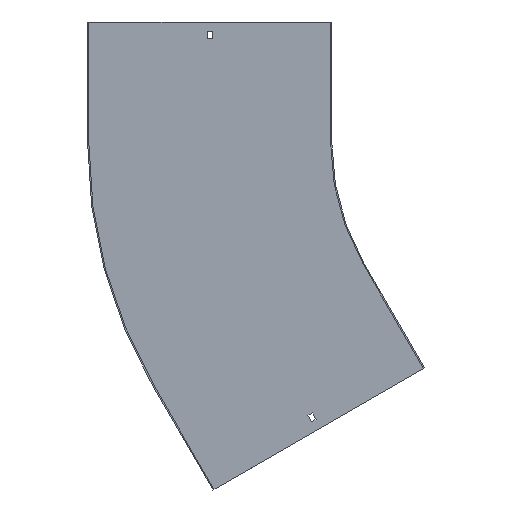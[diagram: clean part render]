
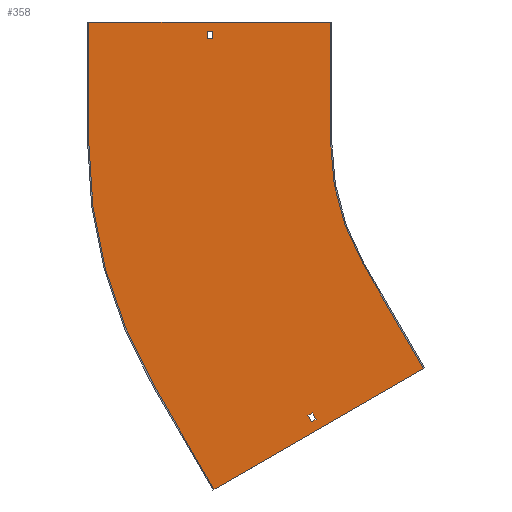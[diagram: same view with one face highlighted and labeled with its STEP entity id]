
A CAD part, front view. The second image highlights one B-rep face of the part: STEP entity #358.
In plain terms, the highlighted planar face has unit normal (0, -1, 0).
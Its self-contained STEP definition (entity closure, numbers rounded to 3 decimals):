
#2 = ORIENTED_EDGE ( 'NONE', *, *, #404, .T. ) ;
#3 = CARTESIAN_POINT ( 'NONE',  ( -453.25, -1.5, 129. ) ) ;
#9 = VERTEX_POINT ( 'NONE', #702 ) ;
#11 = ORIENTED_EDGE ( 'NONE', *, *, #659, .F. ) ;
#16 = DIRECTION ( 'NONE',  ( -0.5, 0., 0.866 ) ) ;
#22 = CARTESIAN_POINT ( 'NONE',  ( -453.25, -1.5, 0. ) ) ;
#34 = VERTEX_POINT ( 'NONE', #773 ) ;
#37 = FACE_BOUND ( 'NONE', #284, .T. ) ;
#47 = CARTESIAN_POINT ( 'NONE',  ( -392.526, -1.5, -226.625 ) ) ;
#53 = EDGE_CURVE ( 'NONE', #198, #804, #835, .T. ) ;
#64 = LINE ( 'NONE', #855, #696 ) ;
#68 = LINE ( 'NONE', #475, #747 ) ;
#69 = CARTESIAN_POINT ( 'NONE',  ( -183.509, -1.5, -279.154 ) ) ;
#83 = ORIENTED_EDGE ( 'NONE', *, *, #166, .F. ) ;
#89 = DIRECTION ( 'NONE',  ( 0., 0., 1. ) ) ;
#91 = DIRECTION ( 'NONE',  ( 0., 0., -1. ) ) ;
#93 = LINE ( 'NONE', #420, #165 ) ;
#95 = CARTESIAN_POINT ( 'NONE',  ( 0., -1.5, 0. ) ) ;
#100 = CARTESIAN_POINT ( 'NONE',  ( 0., -1.5, 0. ) ) ;
#105 = DIRECTION ( 'NONE',  ( 0., 0., -1. ) ) ;
#113 = LINE ( 'NONE', #47, #733 ) ;
#119 = CARTESIAN_POINT ( 'NONE',  ( -323.526, -1.5, -346.137 ) ) ;
#122 = CARTESIAN_POINT ( 'NONE',  ( -601.5, -1.5, 150. ) ) ;
#135 = EDGE_LOOP ( 'NONE', ( #210, #222, #247, #832, #83, #493, #11, #751 ) ) ;
#136 = ORIENTED_EDGE ( 'NONE', *, *, #390, .T. ) ;
#153 = DIRECTION ( 'NONE',  ( 0.866, 0., 0.5 ) ) ;
#157 = FACE_BOUND ( 'NONE', #396, .T. ) ;
#163 = LINE ( 'NONE', #22, #451 ) ;
#165 = VECTOR ( 'NONE', #691, 1000. ) ;
#166 = EDGE_CURVE ( 'NONE', #345, #630, #464, .T. ) ;
#178 = DIRECTION ( 'NONE',  ( 0., 0., -1. ) ) ;
#182 = EDGE_CURVE ( 'NONE', #434, #476, #501, .T. ) ;
#188 = VECTOR ( 'NONE', #91, 1000. ) ;
#194 = CARTESIAN_POINT ( 'NONE',  ( 64.5, -1.5, -111.717 ) ) ;
#198 = VERTEX_POINT ( 'NONE', #416 ) ;
#200 = VERTEX_POINT ( 'NONE', #637 ) ;
#210 = ORIENTED_EDGE ( 'NONE', *, *, #466, .F. ) ;
#222 = ORIENTED_EDGE ( 'NONE', *, *, #474, .F. ) ;
#247 = ORIENTED_EDGE ( 'NONE', *, *, #53, .F. ) ;
#248 = DIRECTION ( 'NONE',  ( 0., 0., 1. ) ) ;
#255 = CARTESIAN_POINT ( 'NONE',  ( -300., -1.5, 150. ) ) ;
#262 = LINE ( 'NONE', #122, #306 ) ;
#271 = EDGE_CURVE ( 'NONE', #625, #200, #488, .T. ) ;
#278 = VERTEX_POINT ( 'NONE', #421 ) ;
#283 = ORIENTED_EDGE ( 'NONE', *, *, #182, .T. ) ;
#284 = EDGE_LOOP ( 'NONE', ( #670, #283, #136, #2 ) ) ;
#306 = VECTOR ( 'NONE', #655, 1000. ) ;
#310 = ORIENTED_EDGE ( 'NONE', *, *, #457, .F. ) ;
#324 = CARTESIAN_POINT ( 'NONE',  ( -259.808, -1.5, -150. ) ) ;
#326 = DIRECTION ( 'NONE',  ( -0.866, 0., -0.5 ) ) ;
#329 = AXIS2_PLACEMENT_3D ( 'NONE', #95, #701, #105 ) ;
#345 = VERTEX_POINT ( 'NONE', #499 ) ;
#358 = ADVANCED_FACE ( 'NONE', ( #157, #427, #37 ), #692, .T. ) ;
#363 = CARTESIAN_POINT ( 'NONE',  ( 0., -1.5, 0. ) ) ;
#377 = CARTESIAN_POINT ( 'NONE',  ( -444.615, -1.5, -429.904 ) ) ;
#378 = CARTESIAN_POINT ( 'NONE',  ( -600., -1.5, 0. ) ) ;
#385 = DIRECTION ( 'NONE',  ( 0., 0., -1. ) ) ;
#390 = EDGE_CURVE ( 'NONE', #476, #735, #93, .T. ) ;
#396 = EDGE_LOOP ( 'NONE', ( #310, #513, #446, #477 ) ) ;
#403 = DIRECTION ( 'NONE',  ( -0.5, 0., 0.866 ) ) ;
#404 = EDGE_CURVE ( 'NONE', #735, #570, #163, .T. ) ;
#416 = CARTESIAN_POINT ( 'NONE',  ( -519.615, -1.5, -300. ) ) ;
#420 = CARTESIAN_POINT ( 'NONE',  ( 0., -1.5, 129. ) ) ;
#421 = CARTESIAN_POINT ( 'NONE',  ( -300., -1.5, 150. ) ) ;
#427 = FACE_OUTER_BOUND ( 'NONE', #135, .T. ) ;
#429 = CARTESIAN_POINT ( 'NONE',  ( 0., -1.5, 138. ) ) ;
#434 = VERTEX_POINT ( 'NONE', #797 ) ;
#443 = LINE ( 'NONE', #717, #469 ) ;
#446 = ORIENTED_EDGE ( 'NONE', *, *, #610, .F. ) ;
#451 = VECTOR ( 'NONE', #89, 1000. ) ;
#454 = EDGE_CURVE ( 'NONE', #34, #808, #536, .T. ) ;
#457 = EDGE_CURVE ( 'NONE', #200, #34, #443, .T. ) ;
#460 = LINE ( 'NONE', #324, #783 ) ;
#461 = VECTOR ( 'NONE', #695, 1000. ) ;
#464 = LINE ( 'NONE', #69, #711 ) ;
#465 = CARTESIAN_POINT ( 'NONE',  ( -328.026, -1.5, -338.342 ) ) ;
#466 = EDGE_CURVE ( 'NONE', #674, #278, #262, .T. ) ;
#469 = VECTOR ( 'NONE', #16, 1000. ) ;
#474 = EDGE_CURVE ( 'NONE', #804, #674, #64, .T. ) ;
#475 = CARTESIAN_POINT ( 'NONE',  ( -444.615, -1.5, -429.904 ) ) ;
#476 = VERTEX_POINT ( 'NONE', #626 ) ;
#477 = ORIENTED_EDGE ( 'NONE', *, *, #454, .F. ) ;
#488 = LINE ( 'NONE', #749, #645 ) ;
#493 = ORIENTED_EDGE ( 'NONE', *, *, #829, .F. ) ;
#499 = CARTESIAN_POINT ( 'NONE',  ( -184.808, -1.5, -279.904 ) ) ;
#501 = LINE ( 'NONE', #761, #188 ) ;
#512 = EDGE_CURVE ( 'NONE', #630, #198, #68, .T. ) ;
#513 = ORIENTED_EDGE ( 'NONE', *, *, #271, .F. ) ;
#515 = DIRECTION ( 'NONE',  ( 0.5, 0., -0.866 ) ) ;
#521 = LINE ( 'NONE', #255, #666 ) ;
#532 = CIRCLE ( 'NONE', #592, 300. ) ;
#536 = LINE ( 'NONE', #194, #859 ) ;
#570 = VERTEX_POINT ( 'NONE', #718 ) ;
#592 = AXIS2_PLACEMENT_3D ( 'NONE', #100, #636, #385 ) ;
#596 = CARTESIAN_POINT ( 'NONE',  ( -259.808, -1.5, -150. ) ) ;
#610 = EDGE_CURVE ( 'NONE', #808, #625, #113, .T. ) ;
#625 = VERTEX_POINT ( 'NONE', #119 ) ;
#626 = CARTESIAN_POINT ( 'NONE',  ( -446.75, -1.5, 129. ) ) ;
#630 = VERTEX_POINT ( 'NONE', #377 ) ;
#636 = DIRECTION ( 'NONE',  ( 0., -1., 0. ) ) ;
#637 = CARTESIAN_POINT ( 'NONE',  ( -317.897, -1.5, -342.887 ) ) ;
#639 = DIRECTION ( 'NONE',  ( 0., 1., 0. ) ) ;
#645 = VECTOR ( 'NONE', #153, 1000. ) ;
#654 = DIRECTION ( 'NONE',  ( 0., 0., -1. ) ) ;
#655 = DIRECTION ( 'NONE',  ( 1., 0., 0. ) ) ;
#659 = EDGE_CURVE ( 'NONE', #9, #818, #532, .T. ) ;
#666 = VECTOR ( 'NONE', #654, 1000. ) ;
#670 = ORIENTED_EDGE ( 'NONE', *, *, #728, .T. ) ;
#674 = VERTEX_POINT ( 'NONE', #724 ) ;
#691 = DIRECTION ( 'NONE',  ( -1., 0., 0. ) ) ;
#692 = PLANE ( 'NONE',  #329 ) ;
#695 = DIRECTION ( 'NONE',  ( 1., 0., 0. ) ) ;
#696 = VECTOR ( 'NONE', #248, 1000. ) ;
#701 = DIRECTION ( 'NONE',  ( 0., -1., 0. ) ) ;
#702 = CARTESIAN_POINT ( 'NONE',  ( -300., -1.5, 0. ) ) ;
#711 = VECTOR ( 'NONE', #326, 1000. ) ;
#717 = CARTESIAN_POINT ( 'NONE',  ( -386.897, -1.5, -223.375 ) ) ;
#718 = CARTESIAN_POINT ( 'NONE',  ( -453.25, -1.5, 138. ) ) ;
#719 = DIRECTION ( 'NONE',  ( 0.5, 0., -0.866 ) ) ;
#724 = CARTESIAN_POINT ( 'NONE',  ( -600., -1.5, 150. ) ) ;
#728 = EDGE_CURVE ( 'NONE', #570, #434, #760, .T. ) ;
#732 = DIRECTION ( 'NONE',  ( -0.866, 0., -0.5 ) ) ;
#733 = VECTOR ( 'NONE', #515, 1000. ) ;
#735 = VERTEX_POINT ( 'NONE', #3 ) ;
#746 = AXIS2_PLACEMENT_3D ( 'NONE', #363, #639, #178 ) ;
#747 = VECTOR ( 'NONE', #403, 1000. ) ;
#749 = CARTESIAN_POINT ( 'NONE',  ( 69., -1.5, -119.512 ) ) ;
#751 = ORIENTED_EDGE ( 'NONE', *, *, #806, .F. ) ;
#760 = LINE ( 'NONE', #429, #461 ) ;
#761 = CARTESIAN_POINT ( 'NONE',  ( -446.75, -1.5, 0. ) ) ;
#773 = CARTESIAN_POINT ( 'NONE',  ( -322.397, -1.5, -335.092 ) ) ;
#783 = VECTOR ( 'NONE', #719, 1000. ) ;
#797 = CARTESIAN_POINT ( 'NONE',  ( -446.75, -1.5, 138. ) ) ;
#804 = VERTEX_POINT ( 'NONE', #378 ) ;
#806 = EDGE_CURVE ( 'NONE', #278, #9, #521, .T. ) ;
#808 = VERTEX_POINT ( 'NONE', #465 ) ;
#818 = VERTEX_POINT ( 'NONE', #596 ) ;
#829 = EDGE_CURVE ( 'NONE', #818, #345, #460, .T. ) ;
#832 = ORIENTED_EDGE ( 'NONE', *, *, #512, .F. ) ;
#835 = CIRCLE ( 'NONE', #746, 600. ) ;
#855 = CARTESIAN_POINT ( 'NONE',  ( -600., -1.5, 0. ) ) ;
#859 = VECTOR ( 'NONE', #732, 1000. ) ;
